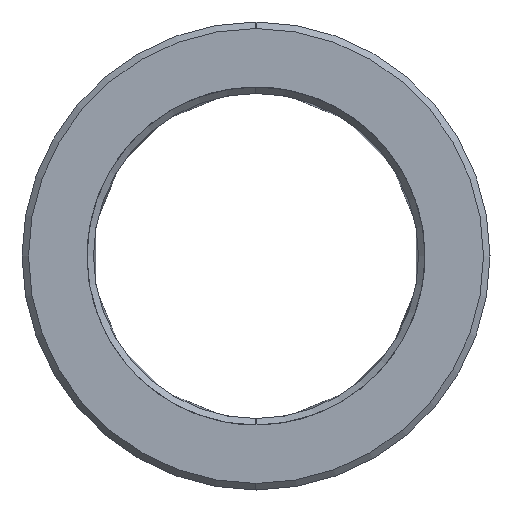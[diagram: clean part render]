
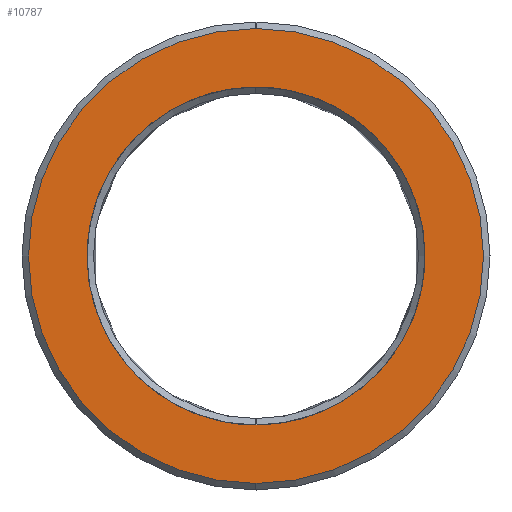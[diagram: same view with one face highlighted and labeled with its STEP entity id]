
A CAD part, left-side view. The second image highlights one B-rep face of the part: STEP entity #10787.
In plain terms, the highlighted planar face has unit normal (1, 0, 0).
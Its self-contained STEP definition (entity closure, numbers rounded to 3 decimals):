
#10704=CARTESIAN_POINT('Axis2P3D Location',(0.,0.,0.)) ;
#10709=CARTESIAN_POINT('Axis2P3D Location',(0.,0.,0.)) ;
#10713=CARTESIAN_POINT('Vertex',(0.,0.,-17.5)) ;
#10715=CARTESIAN_POINT('Vertex',(0.,0.,17.5)) ;
#10718=CARTESIAN_POINT('Axis2P3D Location',(0.,0.,0.)) ;
#10728=CARTESIAN_POINT('Control Point',(0.,0.,13.)) ;
#10729=CARTESIAN_POINT('Control Point',(0.,1.236,13.)) ;
#10730=CARTESIAN_POINT('Control Point',(0.,2.473,12.853)) ;
#10731=CARTESIAN_POINT('Control Point',(0.,3.686,12.559)) ;
#10732=CARTESIAN_POINT('Control Point',(0.,6.019,11.688)) ;
#10733=CARTESIAN_POINT('Control Point',(0.,8.083,10.295)) ;
#10734=CARTESIAN_POINT('Control Point',(0.,9.027,9.478)) ;
#10735=CARTESIAN_POINT('Control Point',(0.,10.702,7.635)) ;
#10736=CARTESIAN_POINT('Control Point',(0.,11.899,5.452)) ;
#10737=CARTESIAN_POINT('Control Point',(0.,12.365,4.293)) ;
#10738=CARTESIAN_POINT('Control Point',(0.,13.011,1.888)) ;
#10739=CARTESIAN_POINT('Control Point',(0.,13.075,-0.601)) ;
#10740=CARTESIAN_POINT('Control Point',(0.,12.958,-1.844)) ;
#10741=CARTESIAN_POINT('Control Point',(0.,12.432,-4.278)) ;
#10742=CARTESIAN_POINT('Control Point',(0.,11.349,-6.521)) ;
#10743=CARTESIAN_POINT('Control Point',(0.,10.676,-7.572)) ;
#10744=CARTESIAN_POINT('Control Point',(0.,9.093,-9.495)) ;
#10745=CARTESIAN_POINT('Control Point',(0.,7.104,-10.993)) ;
#10746=CARTESIAN_POINT('Control Point',(0.,6.025,-11.62)) ;
#10747=CARTESIAN_POINT('Control Point',(0.,4.188,-12.411)) ;
#10748=CARTESIAN_POINT('Control Point',(0.,2.243,-12.838)) ;
#10749=CARTESIAN_POINT('Control Point',(0.,1.499,-12.946)) ;
#10750=CARTESIAN_POINT('Control Point',(0.,0.749,-13.)) ;
#10751=CARTESIAN_POINT('Control Point',(0.,0.,-13.)) ;
#10752=CARTESIAN_POINT('Vertex',(0.,0.,13.)) ;
#10754=CARTESIAN_POINT('Vertex',(0.,0.,-13.)) ;
#10758=CARTESIAN_POINT('Control Point',(0.,0.,-13.)) ;
#10759=CARTESIAN_POINT('Control Point',(0.,-1.236,-13.)) ;
#10760=CARTESIAN_POINT('Control Point',(0.,-2.473,-12.853)) ;
#10761=CARTESIAN_POINT('Control Point',(0.,-3.686,-12.559)) ;
#10762=CARTESIAN_POINT('Control Point',(0.,-6.019,-11.688)) ;
#10763=CARTESIAN_POINT('Control Point',(0.,-8.083,-10.295)) ;
#10764=CARTESIAN_POINT('Control Point',(0.,-9.027,-9.478)) ;
#10765=CARTESIAN_POINT('Control Point',(0.,-10.702,-7.635)) ;
#10766=CARTESIAN_POINT('Control Point',(0.,-11.899,-5.452)) ;
#10767=CARTESIAN_POINT('Control Point',(0.,-12.365,-4.293)) ;
#10768=CARTESIAN_POINT('Control Point',(0.,-13.011,-1.888)) ;
#10769=CARTESIAN_POINT('Control Point',(0.,-13.075,0.601)) ;
#10770=CARTESIAN_POINT('Control Point',(0.,-12.958,1.844)) ;
#10771=CARTESIAN_POINT('Control Point',(0.,-12.432,4.278)) ;
#10772=CARTESIAN_POINT('Control Point',(0.,-11.349,6.521)) ;
#10773=CARTESIAN_POINT('Control Point',(0.,-10.676,7.572)) ;
#10774=CARTESIAN_POINT('Control Point',(0.,-9.093,9.495)) ;
#10775=CARTESIAN_POINT('Control Point',(0.,-7.104,10.993)) ;
#10776=CARTESIAN_POINT('Control Point',(0.,-6.025,11.62)) ;
#10777=CARTESIAN_POINT('Control Point',(0.,-4.188,12.411)) ;
#10778=CARTESIAN_POINT('Control Point',(0.,-2.243,12.838)) ;
#10779=CARTESIAN_POINT('Control Point',(0.,-1.499,12.946)) ;
#10780=CARTESIAN_POINT('Control Point',(0.,-0.749,13.)) ;
#10781=CARTESIAN_POINT('Control Point',(0.,0.,13.)) ;
#10705=DIRECTION('Axis2P3D Direction',(1.,0.,0.)) ;
#10706=DIRECTION('Axis2P3D XDirection',(0.,1.,0.)) ;
#10710=DIRECTION('Axis2P3D Direction',(1.,0.,0.)) ;
#10719=DIRECTION('Axis2P3D Direction',(1.,0.,0.)) ;
#10707=AXIS2_PLACEMENT_3D('Plane Axis2P3D',#10704,#10705,#10706) ;
#10711=AXIS2_PLACEMENT_3D('Circle Axis2P3D',#10709,#10710,$) ;
#10720=AXIS2_PLACEMENT_3D('Circle Axis2P3D',#10718,#10719,$) ;
#10724=ORIENTED_EDGE('',*,*,#10717,.T.) ;
#10725=ORIENTED_EDGE('',*,*,#10722,.T.) ;
#10784=ORIENTED_EDGE('',*,*,#10756,.T.) ;
#10785=ORIENTED_EDGE('',*,*,#10782,.T.) ;
#10786=FACE_BOUND('',#10783,.T.) ;
#10787=ADVANCED_FACE('MANIFOLD_SOLID_BREP #5937',(#10726,#10786),#10708,.T.) ;
#10727=B_SPLINE_CURVE_WITH_KNOTS('',5,(#10728,#10729,#10730,#10731,#10732,#10733,#10734,#10735,#10736,#10737,#10738,#10739,#10740,#10741,#10742,#10743,#10744,#10745,#10746,#10747,#10748,#10749,#10750,#10751),.UNSPECIFIED.,.F.,.U.,(6,3,3,3,3,3,3,6),(0.,8.743,17.486,26.229,34.972,43.715,52.457,57.757),.UNSPECIFIED.) ;
#10757=B_SPLINE_CURVE_WITH_KNOTS('',5,(#10758,#10759,#10760,#10761,#10762,#10763,#10764,#10765,#10766,#10767,#10768,#10769,#10770,#10771,#10772,#10773,#10774,#10775,#10776,#10777,#10778,#10779,#10780,#10781),.UNSPECIFIED.,.F.,.U.,(6,3,3,3,3,3,3,6),(0.,8.743,17.486,26.229,34.972,43.715,52.457,57.757),.UNSPECIFIED.) ;
#10712=CIRCLE('generated circle',#10711,17.5) ;
#10721=CIRCLE('generated circle',#10720,17.5) ;
#10717=EDGE_CURVE('',#10714,#10716,#10712,.T.) ;
#10722=EDGE_CURVE('',#10716,#10714,#10721,.T.) ;
#10756=EDGE_CURVE('',#10753,#10755,#10727,.T.) ;
#10782=EDGE_CURVE('',#10755,#10753,#10757,.T.) ;
#10723=EDGE_LOOP('',(#10724,#10725)) ;
#10783=EDGE_LOOP('',(#10784,#10785)) ;
#10726=FACE_OUTER_BOUND('',#10723,.T.) ;
#10708=PLANE('Plane',#10707) ;
#10714=VERTEX_POINT('',#10713) ;
#10716=VERTEX_POINT('',#10715) ;
#10753=VERTEX_POINT('',#10752) ;
#10755=VERTEX_POINT('',#10754) ;
